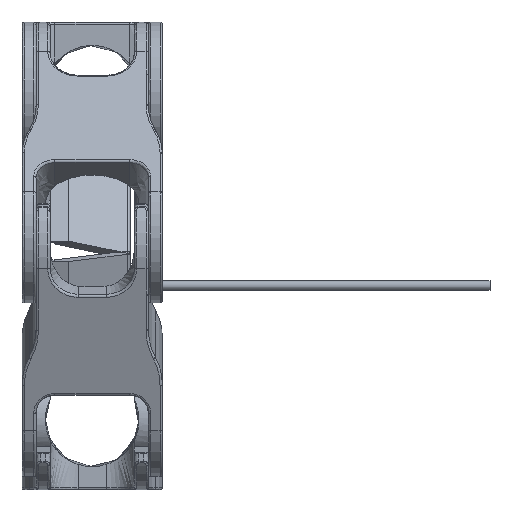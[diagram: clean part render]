
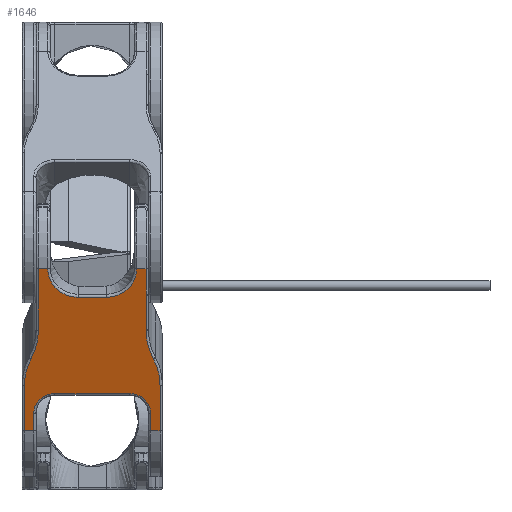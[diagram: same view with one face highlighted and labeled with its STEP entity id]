
A CAD part, front view. The second image highlights one B-rep face of the part: STEP entity #1646.
In plain terms, the highlighted free-form (B-spline) face has degree [1, 1] with [2, 2] control points.
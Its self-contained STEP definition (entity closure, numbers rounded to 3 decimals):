
#913=CARTESIAN_POINT('',(145.596,190.713,-1.25));
#914=VERTEX_POINT('',#913);
#976=CARTESIAN_POINT('',(143.596,190.713,-1.25));
#977=VERTEX_POINT('',#976);
#985=CARTESIAN_POINT('',(145.596,190.713,-1.25));
#986=DIRECTION('',(-1.0,0.0,0.0));
#987=VECTOR('',#986,2.);
#988=LINE('',#985,#987);
#989=EDGE_CURVE('',#914,#977,#988,.T.);
#1092=CARTESIAN_POINT('',(141.346,190.713,-3.5));
#1093=VERTEX_POINT('',#1092);
#1101=CARTESIAN_POINT('',(143.596,190.713,-3.5));
#1102=DIRECTION('',(0.0,-1.,0.0));
#1103=DIRECTION('',(-0.707,0.0,0.707));
#1104=AXIS2_PLACEMENT_3D('',#1101,#1102,#1103);
#1105=CIRCLE('',#1104,2.25);
#1106=EDGE_CURVE('',#977,#1093,#1105,.T.);
#1139=CARTESIAN_POINT('',(141.346,190.713,-11.5));
#1140=VERTEX_POINT('',#1139);
#1150=CARTESIAN_POINT('',(141.346,190.713,-3.5));
#1151=DIRECTION('',(0.0,0.0,-1.0));
#1152=VECTOR('',#1151,8.);
#1153=LINE('',#1150,#1152);
#1154=EDGE_CURVE('',#1093,#1140,#1153,.T.);
#1219=CARTESIAN_POINT('',(143.596,190.713,-13.75));
#1220=VERTEX_POINT('',#1219);
#1230=CARTESIAN_POINT('',(143.596,190.713,-11.5));
#1231=DIRECTION('',(0.0,-1.,0.0));
#1232=DIRECTION('',(-0.707,0.0,-0.707));
#1233=AXIS2_PLACEMENT_3D('',#1230,#1231,#1232);
#1234=CIRCLE('',#1233,2.25);
#1235=EDGE_CURVE('',#1140,#1220,#1234,.T.);
#1341=CARTESIAN_POINT('',(145.596,190.713,-13.75));
#1342=VERTEX_POINT('',#1341);
#1352=CARTESIAN_POINT('',(143.596,190.713,-13.75));
#1353=DIRECTION('',(1.0,0.0,0.0));
#1354=VECTOR('',#1353,2.);
#1355=LINE('',#1352,#1354);
#1356=EDGE_CURVE('',#1220,#1342,#1355,.T.);
#1486=CARTESIAN_POINT('',(145.596,190.713,-0.25));
#1487=CARTESIAN_POINT('',(145.596,190.713,-14.75));
#1488=CARTESIAN_POINT('',(127.096,190.713,-0.25));
#1489=CARTESIAN_POINT('',(127.096,190.713,-14.75));
#1490=B_SPLINE_SURFACE_WITH_KNOTS('',1,1,((#1486,#1488),(#1487,#1489)),.UNSPECIFIED.,.F.,.F.,.U.,(2,2),(2,2),(0.0,14.5),(0.0,18.5),.UNSPECIFIED.);
#1491=ORIENTED_EDGE('',*,*,#1356,.T.);
#1492=CARTESIAN_POINT('',(145.596,190.713,-14.75));
#1493=VERTEX_POINT('',#1492);
#1494=CARTESIAN_POINT('',(145.596,190.713,-13.75));
#1495=DIRECTION('',(0.0,0.0,-1.0));
#1496=VECTOR('',#1495,1.);
#1497=LINE('',#1494,#1496);
#1498=EDGE_CURVE('',#1342,#1493,#1497,.T.);
#1499=ORIENTED_EDGE('',*,*,#1498,.T.);
#1500=CARTESIAN_POINT('',(140.42,190.713,-14.75));
#1501=VERTEX_POINT('',#1500);
#1502=CARTESIAN_POINT('',(145.596,190.713,-14.75));
#1503=DIRECTION('',(-1.0,0.0,0.0));
#1504=VECTOR('',#1503,5.176);
#1505=LINE('',#1502,#1504);
#1506=EDGE_CURVE('',#1493,#1501,#1505,.T.);
#1507=ORIENTED_EDGE('',*,*,#1506,.T.);
#1508=CARTESIAN_POINT('',(137.38,190.713,-14.027));
#1509=VERTEX_POINT('',#1508);
#1510=CARTESIAN_POINT('',(140.42,190.713,-8.));
#1511=DIRECTION('',(0.0,1.,0.0));
#1512=DIRECTION('',(-0.231,0.0,-0.973));
#1513=AXIS2_PLACEMENT_3D('',#1510,#1511,#1512);
#1514=CIRCLE('',#1513,6.75);
#1515=EDGE_CURVE('',#1501,#1509,#1514,.T.);
#1516=ORIENTED_EDGE('',*,*,#1515,.T.);
#1517=CARTESIAN_POINT('',(134.115,190.713,-13.25));
#1518=VERTEX_POINT('',#1517);
#1519=CARTESIAN_POINT('',(134.115,190.713,-20.5));
#1520=DIRECTION('',(0.0,-1.,0.0));
#1521=DIRECTION('',(0.231,0.0,0.973));
#1522=AXIS2_PLACEMENT_3D('',#1519,#1520,#1521);
#1523=CIRCLE('',#1522,7.25);
#1524=EDGE_CURVE('',#1509,#1518,#1523,.T.);
#1525=ORIENTED_EDGE('',*,*,#1524,.T.);
#1526=CARTESIAN_POINT('',(130.115,190.713,-13.25));
#1527=VERTEX_POINT('',#1526);
#1528=CARTESIAN_POINT('',(134.115,190.713,-13.25));
#1529=DIRECTION('',(-1.,0.0,0.));
#1530=VECTOR('',#1529,4.);
#1531=LINE('',#1528,#1530);
#1532=EDGE_CURVE('',#1518,#1527,#1531,.T.);
#1533=ORIENTED_EDGE('',*,*,#1532,.T.);
#1534=CARTESIAN_POINT('',(127.096,190.713,-13.25));
#1535=VERTEX_POINT('',#1534);
#1536=CARTESIAN_POINT('',(130.115,190.713,-13.25));
#1537=DIRECTION('',(-1.0,0.0,0.0));
#1538=VECTOR('',#1537,3.02);
#1539=LINE('',#1536,#1538);
#1540=EDGE_CURVE('',#1527,#1535,#1539,.T.);
#1541=ORIENTED_EDGE('',*,*,#1540,.T.);
#1542=CARTESIAN_POINT('',(127.096,190.713,-12.25));
#1543=VERTEX_POINT('',#1542);
#1544=CARTESIAN_POINT('',(127.096,190.713,-12.25));
#1545=DIRECTION('',(0.0,0.0,-1.0));
#1546=VECTOR('',#1545,1.);
#1547=LINE('',#1544,#1546);
#1548=EDGE_CURVE('',#1543,#1535,#1547,.T.);
#1549=ORIENTED_EDGE('',*,*,#1548,.F.);
#1550=CARTESIAN_POINT('',(127.115,190.713,-12.25));
#1551=VERTEX_POINT('',#1550);
#1552=CARTESIAN_POINT('',(127.096,190.713,-12.25));
#1553=DIRECTION('',(1.0,0.0,0.0));
#1554=VECTOR('',#1553,0.02);
#1555=LINE('',#1552,#1554);
#1556=EDGE_CURVE('',#1543,#1551,#1555,.T.);
#1557=ORIENTED_EDGE('',*,*,#1556,.T.);
#1558=CARTESIAN_POINT('',(130.365,190.713,-9.));
#1559=VERTEX_POINT('',#1558);
#1560=CARTESIAN_POINT('',(127.115,190.713,-9.));
#1561=DIRECTION('',(0.0,-1.0,0.0));
#1562=DIRECTION('',(0.707,0.0,-0.707));
#1563=AXIS2_PLACEMENT_3D('',#1560,#1561,#1562);
#1564=CIRCLE('',#1563,3.25);
#1565=EDGE_CURVE('',#1551,#1559,#1564,.T.);
#1566=ORIENTED_EDGE('',*,*,#1565,.T.);
#1567=CARTESIAN_POINT('',(130.365,190.713,-6.));
#1568=VERTEX_POINT('',#1567);
#1569=CARTESIAN_POINT('',(130.365,190.713,-9.));
#1570=DIRECTION('',(0.0,0.0,1.0));
#1571=VECTOR('',#1570,3.);
#1572=LINE('',#1569,#1571);
#1573=EDGE_CURVE('',#1559,#1568,#1572,.T.);
#1574=ORIENTED_EDGE('',*,*,#1573,.T.);
#1575=CARTESIAN_POINT('',(127.115,190.713,-2.75));
#1576=VERTEX_POINT('',#1575);
#1577=CARTESIAN_POINT('',(127.115,190.713,-6.));
#1578=DIRECTION('',(0.0,-1.,0.0));
#1579=DIRECTION('',(0.707,0.0,0.707));
#1580=AXIS2_PLACEMENT_3D('',#1577,#1578,#1579);
#1581=CIRCLE('',#1580,3.25);
#1582=EDGE_CURVE('',#1568,#1576,#1581,.T.);
#1583=ORIENTED_EDGE('',*,*,#1582,.T.);
#1584=CARTESIAN_POINT('',(127.096,190.713,-2.75));
#1585=VERTEX_POINT('',#1584);
#1586=CARTESIAN_POINT('',(127.115,190.713,-2.75));
#1587=DIRECTION('',(-1.0,0.0,0.));
#1588=VECTOR('',#1587,0.02);
#1589=LINE('',#1586,#1588);
#1590=EDGE_CURVE('',#1576,#1585,#1589,.T.);
#1591=ORIENTED_EDGE('',*,*,#1590,.T.);
#1592=CARTESIAN_POINT('',(127.096,190.713,-1.75));
#1593=VERTEX_POINT('',#1592);
#1594=CARTESIAN_POINT('',(127.096,190.713,-1.75));
#1595=DIRECTION('',(0.0,0.0,-1.0));
#1596=VECTOR('',#1595,1.);
#1597=LINE('',#1594,#1596);
#1598=EDGE_CURVE('',#1593,#1585,#1597,.T.);
#1599=ORIENTED_EDGE('',*,*,#1598,.F.);
#1600=CARTESIAN_POINT('',(134.115,190.713,-1.75));
#1601=VERTEX_POINT('',#1600);
#1602=CARTESIAN_POINT('',(127.096,190.713,-1.75));
#1603=DIRECTION('',(1.0,0.0,0.0));
#1604=VECTOR('',#1603,7.02);
#1605=LINE('',#1602,#1604);
#1606=EDGE_CURVE('',#1593,#1601,#1605,.T.);
#1607=ORIENTED_EDGE('',*,*,#1606,.T.);
#1608=CARTESIAN_POINT('',(137.38,190.713,-0.973));
#1609=VERTEX_POINT('',#1608);
#1610=CARTESIAN_POINT('',(134.115,190.713,5.5));
#1611=DIRECTION('',(0.0,-1.0,0.0));
#1612=DIRECTION('',(0.231,0.0,-0.973));
#1613=AXIS2_PLACEMENT_3D('',#1610,#1611,#1612);
#1614=CIRCLE('',#1613,7.25);
#1615=EDGE_CURVE('',#1601,#1609,#1614,.T.);
#1616=ORIENTED_EDGE('',*,*,#1615,.T.);
#1617=CARTESIAN_POINT('',(140.42,190.713,-0.25));
#1618=VERTEX_POINT('',#1617);
#1619=CARTESIAN_POINT('',(140.42,190.713,-7.));
#1620=DIRECTION('',(0.0,1.,0.0));
#1621=DIRECTION('',(-0.231,0.0,0.973));
#1622=AXIS2_PLACEMENT_3D('',#1619,#1620,#1621);
#1623=CIRCLE('',#1622,6.75);
#1624=EDGE_CURVE('',#1609,#1618,#1623,.T.);
#1625=ORIENTED_EDGE('',*,*,#1624,.T.);
#1626=CARTESIAN_POINT('',(145.596,190.713,-0.25));
#1627=VERTEX_POINT('',#1626);
#1628=CARTESIAN_POINT('',(140.42,190.713,-0.25));
#1629=DIRECTION('',(1.0,0.0,0.0));
#1630=VECTOR('',#1629,5.176);
#1631=LINE('',#1628,#1630);
#1632=EDGE_CURVE('',#1618,#1627,#1631,.T.);
#1633=ORIENTED_EDGE('',*,*,#1632,.T.);
#1634=CARTESIAN_POINT('',(145.596,190.713,-0.25));
#1635=DIRECTION('',(0.0,0.0,-1.0));
#1636=VECTOR('',#1635,1.);
#1637=LINE('',#1634,#1636);
#1638=EDGE_CURVE('',#1627,#914,#1637,.T.);
#1639=ORIENTED_EDGE('',*,*,#1638,.T.);
#1640=ORIENTED_EDGE('',*,*,#989,.T.);
#1641=ORIENTED_EDGE('',*,*,#1106,.T.);
#1642=ORIENTED_EDGE('',*,*,#1154,.T.);
#1643=ORIENTED_EDGE('',*,*,#1235,.T.);
#1644=EDGE_LOOP('',(#1491,#1499,#1507,#1516,#1525,#1533,#1541,#1549,#1557,#1566,#1574,#1583,#1591,#1599,#1607,#1616,#1625,#1633,#1639,#1640,#1641,#1642,#1643));
#1645=FACE_OUTER_BOUND('',#1644,.T.);
#1646=ADVANCED_FACE('',(#1645),#1490,.T.);
